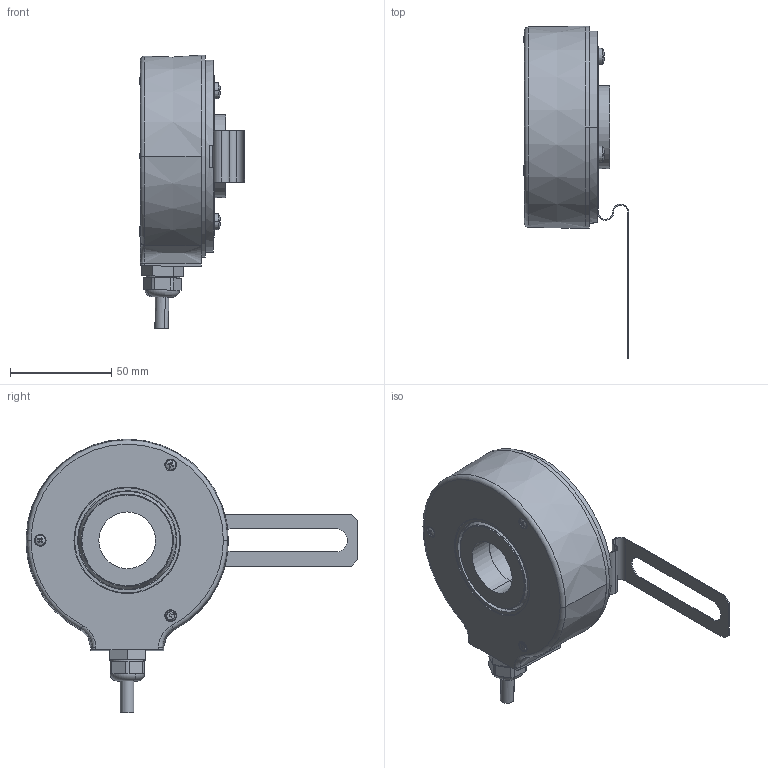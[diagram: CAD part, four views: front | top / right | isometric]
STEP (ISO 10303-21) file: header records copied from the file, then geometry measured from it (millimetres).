
FILE_DESCRIPTION (( 'STEP AP214' ), '1' );
FILE_NAME ('A020.53X1.XXXX.STEP', '2008-02-21T10:43:36', ( 'admin' ), ( 'Fritz Kübler GmbH' ), 'SwSTEP 2.0', 'SolidWorks 2007', '' );
FILE_SCHEMA (( 'AUTOMOTIVE_DESIGN' ));
Length unit declared in the file: millimetre
Products named in the file (1): A020.53X1.XXXX
Bounding box: 52.1 x 164 x 135.25 mm (x, y, z)
Surface area: 52283 mm2 (no closed solid volume)
Topology: 0 solids, 23 shells, 314 faces, 923 edges, 624 vertices
Faces by surface type: plane 155, cylinder 109, cone 21, torus 15, sphere 10, bspline 4
Entity records: 14402 total; most frequent: CARTESIAN_POINT 2422, DIRECTION 1928, ORIENTED_EDGE 1546, EDGE_CURVE 923, AXIS2_PLACEMENT_3D 740, VERTEX_POINT 624, VECTOR 448, LINE 448
